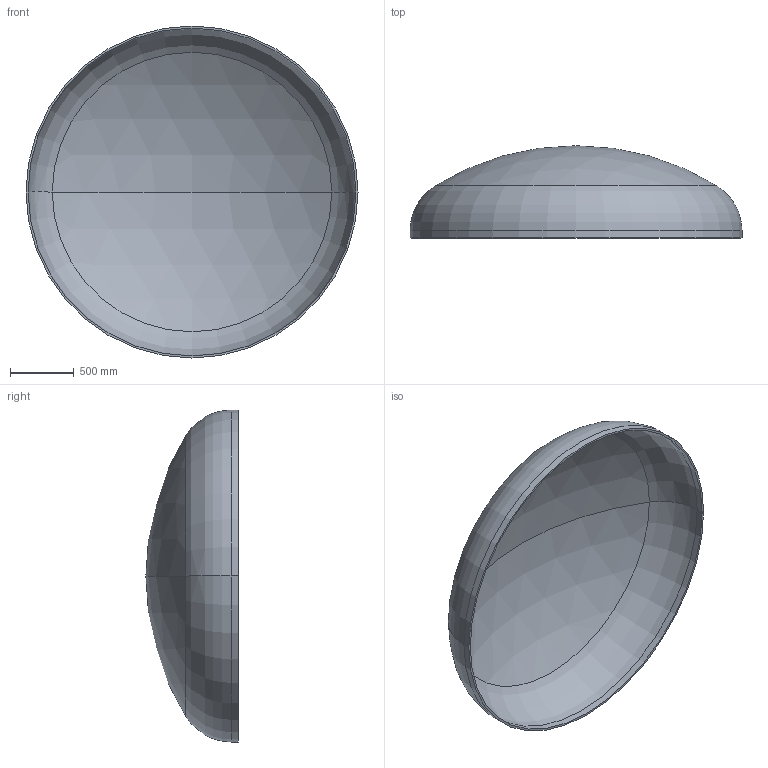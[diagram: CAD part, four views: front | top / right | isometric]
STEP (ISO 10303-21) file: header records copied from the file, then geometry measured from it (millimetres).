
FILE_DESCRIPTION (( 'STEP AP203' ), '1' );
FILE_NAME ('DIN 28013 Korbbogenform_-_Boden DIN 28013 - 2600 x 55 - I - s=16.step', '2016-07-01T15:56:19', ( '' ), ( '' ), 'SwSTEP 2.0', 'SolidWorks 2013', '' );
FILE_SCHEMA (( 'CONFIG_CONTROL_DESIGN' ));
Length unit declared in the file: millimetre
Products named in the file (1): DIN 28013 Korbbogenform_-_Boden DIN 28013 - 2600 x 55 - I - s=16
Bounding box: 2600 x 722.38 x 2600 mm (x, y, z)
Volume: 123822739.6 mm3; surface area: 15608258.6 mm2
Topology: 1 solids, 1 shells, 13 faces, 24 edges, 14 vertices
Faces by surface type: torus 4, cylinder 4, sphere 4, plane 1
Entity records: 407 total; most frequent: DIRECTION 72, CARTESIAN_POINT 52, ORIENTED_EDGE 48, AXIS2_PLACEMENT_3D 34, EDGE_CURVE 24, CIRCLE 20, VERTEX_POINT 14, EDGE_LOOP 14
